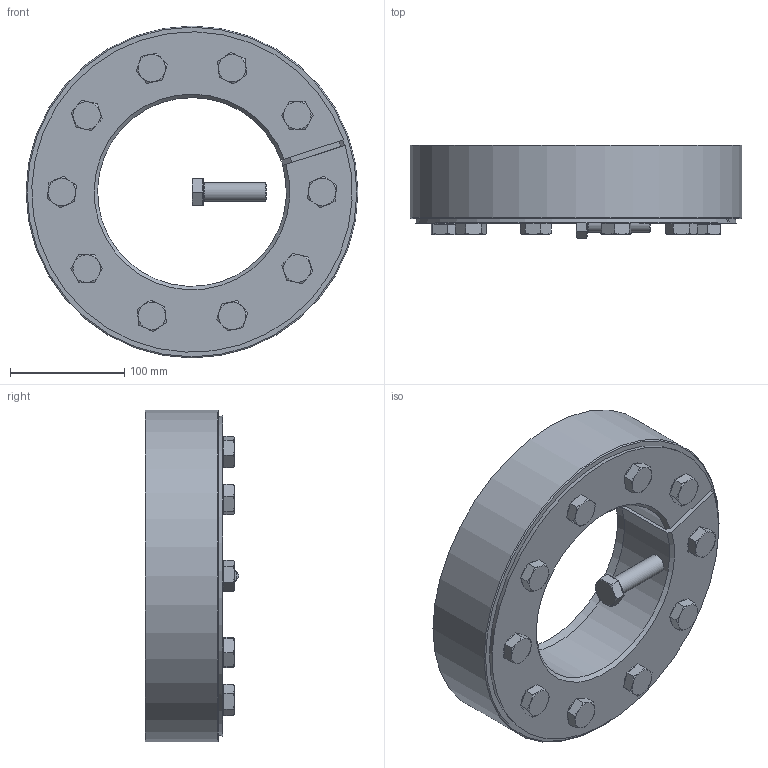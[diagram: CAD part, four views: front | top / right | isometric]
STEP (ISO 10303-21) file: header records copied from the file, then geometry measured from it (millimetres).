
FILE_DESCRIPTION( ( 'Unknown' ), '1' );
FILE_NAME( 'C:/Dokumente und Einstellungen/Sven/Desktop/homepage/cad - homepage/KBS19-1/KBS 19_1 - 165 x 290.stp', 'Unknown', ( 'Unknown' ), ( 'Unknown' ), 'XStep 1.0', 'Unknown', ' ' );
FILE_SCHEMA( ( 'automotive_design' ) );
Length unit declared in the file: millimetre
Products named in the file (3): Assem1; KBS 19_1 - 165 x 290; ISO 4017 - M16 x 55-N
Bounding box: 290 x 81.86 x 290 mm (x, y, z)
Volume: 5907229.2 mm3; surface area: 489139.7 mm2
Topology: 13 solids, 13 shells, 325 faces, 726 edges, 438 vertices
Faces by surface type: plane 183, cone 83, cylinder 46, torus 13
Full cylindrical faces by diameter (mm): 16 x31, 24 x11, 290 x2
Entity records: 1754 total; most frequent: CARTESIAN_POINT 317, DIRECTION 256, ORIENTED_EDGE 206, AXIS2_PLACEMENT_3D 109, EDGE_CURVE 103, EDGE_LOOP 89, VERTEX_POINT 74, FACE_OUTER_BOUND 65
